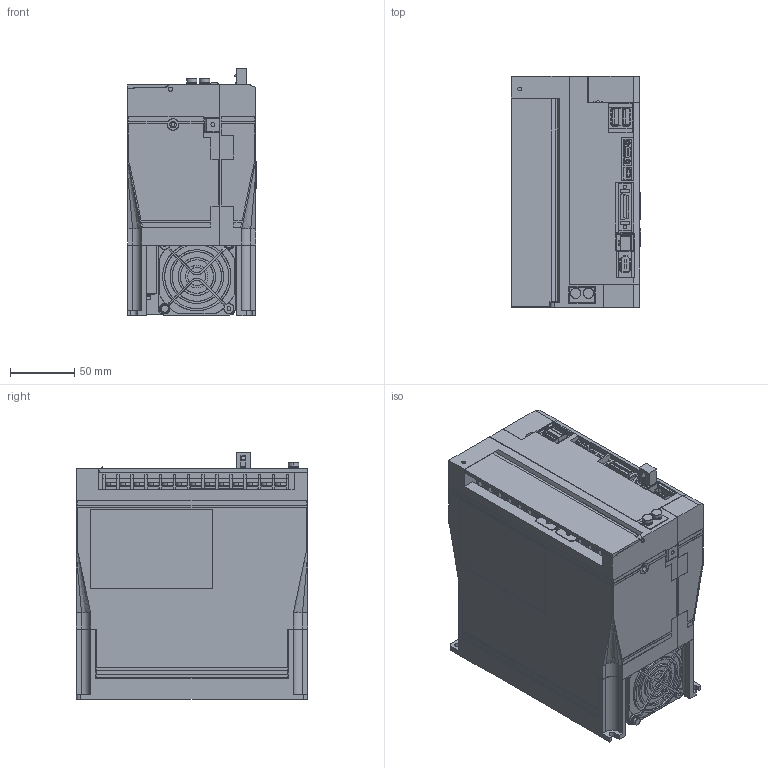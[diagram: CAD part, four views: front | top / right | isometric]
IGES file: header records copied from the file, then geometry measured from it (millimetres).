
Start section: SolidWorks IGES file using analytic representation for surfaces
Global section: file name: C:\YASKAWA\sgdv_180a1_a.IGS; native system: SolidWorks 2006 by SolidWorks Corporation; preprocessor: SolidWorks 2006 by SolidWorks Corporation; author: yamanouchi; date: 080617.171838; units: millimetre
Bounding box: 100.5 x 180 x 193 mm (x, y, z)
Surface area: 239761.8 mm2 (no closed solid volume)
Topology: 0 solids, 0 shells, 2047 faces, 18896 edges, 18896 vertices
Faces by surface type: bspline 1728, revolution 319
